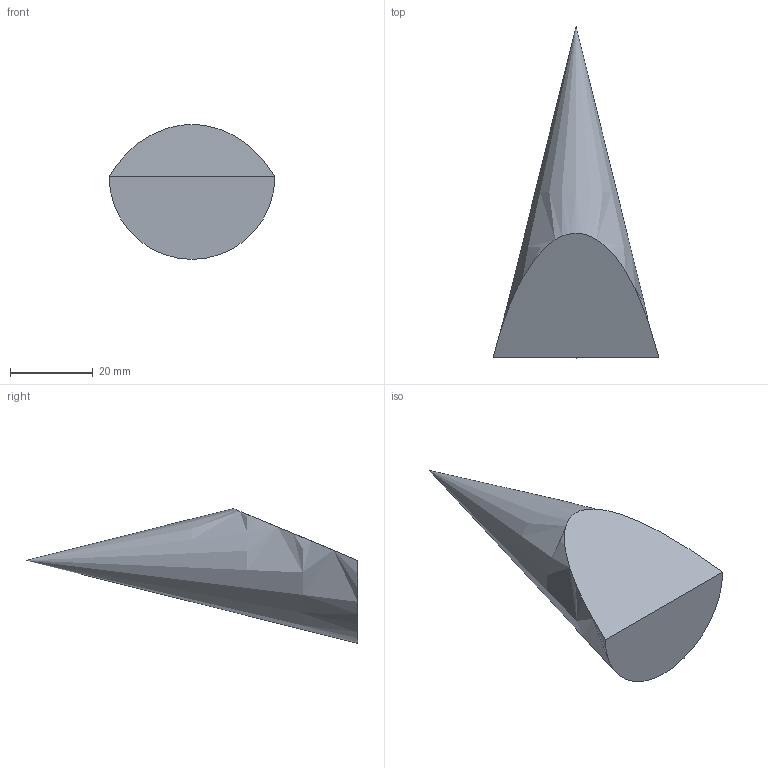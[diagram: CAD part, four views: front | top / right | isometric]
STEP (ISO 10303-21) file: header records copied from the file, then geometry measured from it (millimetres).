
FILE_DESCRIPTION(/* description */ ('','CAx-IF Rec.Pracs.---Representation and Presentation of Product Manufacturing Information (PMI)---4.0---2014-10-13'),/* implementation_level */ '2;1');
FILE_NAME(/* name */ '4.stp',/* time_stamp */ '2026-06-27T14:16:38+01:00',/* author */ ('hunte'),/* organization */ (''),/* preprocessor_version */ 'ST-DEVELOPER v20',/* originating_system */ 'Autodesk Inventor 2024',/* authorisation */ '');
FILE_SCHEMA (('AP242_MANAGED_MODEL_BASED_3D_ENGINEERING_MIM_LF { 1 0 10303 442 1 1 4 }'));
Length unit declared in the file: millimetre
Products named in the file (1): 4
Bounding box: 40 x 80 x 32.5 mm (x, y, z)
Volume: 26073.8 mm3; surface area: 5568.3 mm2
Topology: 1 solids, 1 shells, 3 faces, 6 edges, 4 vertices
Faces by surface type: plane 2, cone 1
Entity records: 209 total; most frequent: DIRECTION 42, CARTESIAN_POINT 30, AXIS2_PLACEMENT_3D 20, ORIENTED_EDGE 10, MAPPED_ITEM 5, REPRESENTATION_MAP 5, DRAUGHTING_MODEL 5, EDGE_CURVE 5
